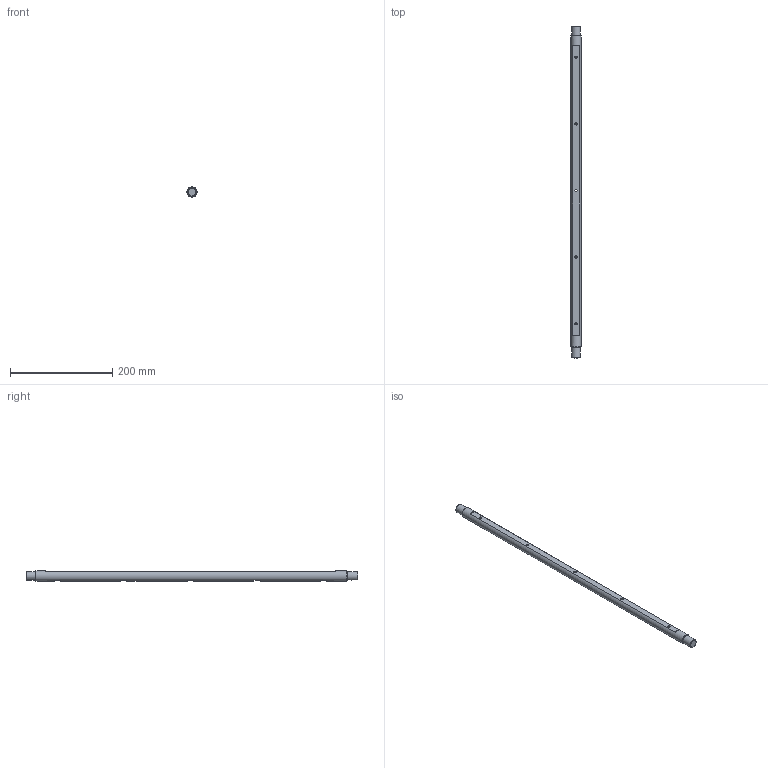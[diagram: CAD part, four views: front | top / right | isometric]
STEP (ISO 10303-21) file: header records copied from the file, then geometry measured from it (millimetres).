
FILE_DESCRIPTION(('STEP AP203'), '1');
FILE_NAME('ﾒﾏﾏﾔ1801.01.08.02.002 - ﾂ琿', '', ('UNSPECIFIED'), ('UNSPECIFIED'), 'C3D Converter', 'C3D Toolkit', '');
FILE_SCHEMA(('CONFIG_CONTROL_DESIGN'));
Length unit declared in the file: millimetre
Products named in the file (1): ТППФ1801.01.08.02.002
Bounding box: 20 x 648 x 20 mm (x, y, z)
Volume: 188430.9 mm3; surface area: 41443.5 mm2
Topology: 1 solids, 1 shells, 36 faces, 76 edges, 49 vertices
Faces by surface type: plane 23, cylinder 8, cone 4, torus 1
Full cylindrical faces by diameter (mm): 4.5 x5, 17 x2, 20 x1
Entity records: 1294 total; most frequent: CARTESIAN_POINT 186, DIRECTION 170, ORIENTED_EDGE 128, AXIS2_PLACEMENT_3D 71, EDGE_LOOP 65, EDGE_CURVE 64, VERTEX_POINT 49, FACE_BOUND 42
